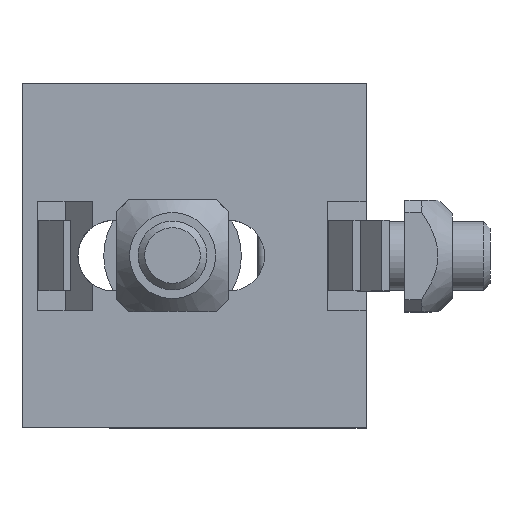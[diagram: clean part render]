
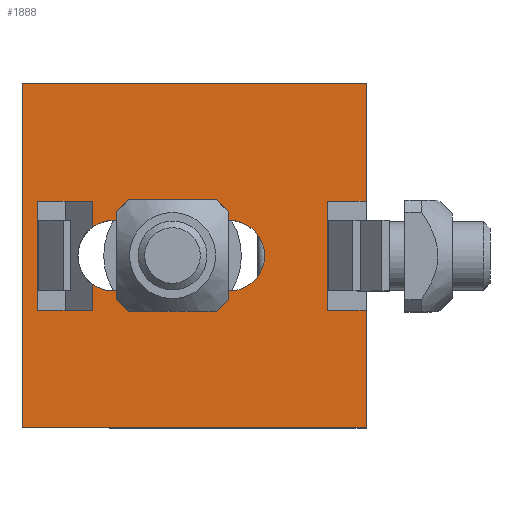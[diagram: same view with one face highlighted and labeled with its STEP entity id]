
A CAD part, top view. The second image highlights one B-rep face of the part: STEP entity #1888.
In plain terms, the highlighted planar face has unit normal (0, 0, 1) as drawn and (-1, 0, 0) by its records, which use the part's own axes.
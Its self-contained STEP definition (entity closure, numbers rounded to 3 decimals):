
#1423=CARTESIAN_POINT('',(0.,4.5,6.35));
#1424=VERTEX_POINT('',#1423);
#1425=CARTESIAN_POINT('',(0.0,0.0,6.35));
#1426=VERTEX_POINT('',#1425);
#1427=CARTESIAN_POINT('',(0.0,4.5,6.35));
#1428=DIRECTION('',(0.0,-1.0,0.0));
#1429=VECTOR('',#1428,4.5);
#1430=LINE('',#1427,#1429);
#1431=EDGE_CURVE('',#1424,#1426,#1430,.T.);
#1457=CARTESIAN_POINT('',(0.,4.5,-6.35));
#1458=VERTEX_POINT('',#1457);
#1472=CARTESIAN_POINT('',(0.0,4.5,-6.35));
#1473=DIRECTION('',(0.0,0.0,1.0));
#1474=VECTOR('',#1473,12.7);
#1475=LINE('',#1472,#1474);
#1476=EDGE_CURVE('',#1458,#1424,#1475,.T.);
#1499=CARTESIAN_POINT('',(0.0,0.0,-6.35));
#1500=VERTEX_POINT('',#1499);
#1501=CARTESIAN_POINT('',(0.0,0.0,-6.35));
#1502=DIRECTION('',(0.0,1.0,0.0));
#1503=VECTOR('',#1502,4.5);
#1504=LINE('',#1501,#1503);
#1505=EDGE_CURVE('',#1500,#1458,#1504,.T.);
#1521=CARTESIAN_POINT('',(0.0,31.818,3.311));
#1522=VERTEX_POINT('',#1521);
#1523=CARTESIAN_POINT('',(0.0,31.818,-3.311));
#1524=VERTEX_POINT('',#1523);
#1532=CARTESIAN_POINT('',(0.0,31.818,6.35));
#1533=VERTEX_POINT('',#1532);
#1534=CARTESIAN_POINT('',(0.,31.818,6.35));
#1535=DIRECTION('',(0.0,0.0,-1.0));
#1536=VECTOR('',#1535,3.039);
#1537=LINE('',#1534,#1536);
#1538=EDGE_CURVE('',#1533,#1522,#1537,.T.);
#1556=CARTESIAN_POINT('',(0.0,31.818,-6.35));
#1557=VERTEX_POINT('',#1556);
#1564=CARTESIAN_POINT('',(0.,31.818,-3.311));
#1565=DIRECTION('',(0.0,0.0,-1.0));
#1566=VECTOR('',#1565,3.039);
#1567=LINE('',#1564,#1566);
#1568=EDGE_CURVE('',#1524,#1557,#1567,.T.);
#1578=CARTESIAN_POINT('',(0.0,38.182,6.35));
#1579=VERTEX_POINT('',#1578);
#1580=CARTESIAN_POINT('',(0.0,38.182,6.35));
#1581=DIRECTION('',(0.0,-1.0,0.0));
#1582=VECTOR('',#1581,6.364);
#1583=LINE('',#1580,#1582);
#1584=EDGE_CURVE('',#1579,#1533,#1583,.T.);
#1601=CARTESIAN_POINT('',(0.0,38.182,-6.35));
#1602=VERTEX_POINT('',#1601);
#1611=CARTESIAN_POINT('',(0.,38.182,-6.35));
#1612=DIRECTION('',(0.0,0.0,1.0));
#1613=VECTOR('',#1612,12.7);
#1614=LINE('',#1611,#1613);
#1615=EDGE_CURVE('',#1602,#1579,#1614,.T.);
#1632=CARTESIAN_POINT('',(0.0,31.818,-6.35));
#1633=DIRECTION('',(0.0,1.0,0.0));
#1634=VECTOR('',#1633,6.364);
#1635=LINE('',#1632,#1634);
#1636=EDGE_CURVE('',#1557,#1602,#1635,.T.);
#1774=CARTESIAN_POINT('',(0.0,29.4,-4.1));
#1775=VERTEX_POINT('',#1774);
#1776=CARTESIAN_POINT('',(0.0,29.4,0.0));
#1777=DIRECTION('',(1.0,0.0,0.0));
#1778=DIRECTION('',(0.0,0.0,-1.0));
#1779=AXIS2_PLACEMENT_3D('',#1776,#1777,#1778);
#1780=CIRCLE('',#1779,4.1);
#1781=EDGE_CURVE('',#1775,#1524,#1780,.T.);
#1790=CARTESIAN_POINT('',(0.0,29.4,4.1));
#1791=VERTEX_POINT('',#1790);
#1798=CARTESIAN_POINT('',(0.0,29.4,0.0));
#1799=DIRECTION('',(1.0,0.0,0.0));
#1800=DIRECTION('',(0.0,0.0,-1.0));
#1801=AXIS2_PLACEMENT_3D('',#1798,#1799,#1800);
#1802=CIRCLE('',#1801,4.1);
#1803=EDGE_CURVE('',#1522,#1791,#1802,.T.);
#1808=CARTESIAN_POINT('',(0.0,0.0,0.0));
#1809=DIRECTION('',(-1.0,0.0,0.0));
#1810=DIRECTION('',(0.0,0.0,1.0));
#1811=AXIS2_PLACEMENT_3D('',#1808,#1809,#1810);
#1812=PLANE('',#1811);
#1813=ORIENTED_EDGE('',*,*,#1505,.T.);
#1814=ORIENTED_EDGE('',*,*,#1476,.T.);
#1815=ORIENTED_EDGE('',*,*,#1431,.T.);
#1816=CARTESIAN_POINT('',(0.0,0.0,20.0));
#1817=VERTEX_POINT('',#1816);
#1818=CARTESIAN_POINT('',(0.0,0.0,6.35));
#1819=DIRECTION('',(0.0,0.0,1.0));
#1820=VECTOR('',#1819,13.65);
#1821=LINE('',#1818,#1820);
#1822=EDGE_CURVE('',#1426,#1817,#1821,.T.);
#1823=ORIENTED_EDGE('',*,*,#1822,.T.);
#1824=CARTESIAN_POINT('',(0.0,40.0,20.0));
#1825=VERTEX_POINT('',#1824);
#1826=CARTESIAN_POINT('',(0.0,0.0,20.0));
#1827=DIRECTION('',(0.0,1.0,0.0));
#1828=VECTOR('',#1827,40.0);
#1829=LINE('',#1826,#1828);
#1830=EDGE_CURVE('',#1817,#1825,#1829,.T.);
#1831=ORIENTED_EDGE('',*,*,#1830,.T.);
#1832=CARTESIAN_POINT('',(0.0,40.0,-20.0));
#1833=VERTEX_POINT('',#1832);
#1834=CARTESIAN_POINT('',(0.0,40.0,20.0));
#1835=DIRECTION('',(0.0,0.0,-1.0));
#1836=VECTOR('',#1835,40.0);
#1837=LINE('',#1834,#1836);
#1838=EDGE_CURVE('',#1825,#1833,#1837,.T.);
#1839=ORIENTED_EDGE('',*,*,#1838,.T.);
#1840=CARTESIAN_POINT('',(0.0,0.0,-20.0));
#1841=VERTEX_POINT('',#1840);
#1842=CARTESIAN_POINT('',(0.0,40.0,-20.0));
#1843=DIRECTION('',(0.0,-1.0,0.0));
#1844=VECTOR('',#1843,40.0);
#1845=LINE('',#1842,#1844);
#1846=EDGE_CURVE('',#1833,#1841,#1845,.T.);
#1847=ORIENTED_EDGE('',*,*,#1846,.T.);
#1848=CARTESIAN_POINT('',(0.0,0.0,-20.0));
#1849=DIRECTION('',(0.0,0.0,1.0));
#1850=VECTOR('',#1849,13.65);
#1851=LINE('',#1848,#1850);
#1852=EDGE_CURVE('',#1841,#1500,#1851,.T.);
#1853=ORIENTED_EDGE('',*,*,#1852,.T.);
#1854=EDGE_LOOP('',(#1813,#1814,#1815,#1823,#1831,#1839,#1847,#1853));
#1855=FACE_OUTER_BOUND('',#1854,.T.);
#1856=ORIENTED_EDGE('',*,*,#1538,.T.);
#1857=ORIENTED_EDGE('',*,*,#1803,.T.);
#1858=CARTESIAN_POINT('',(0.0,15.9,4.1));
#1859=VERTEX_POINT('',#1858);
#1860=CARTESIAN_POINT('',(0.0,29.4,4.1));
#1861=DIRECTION('',(0.0,-1.0,0.0));
#1862=VECTOR('',#1861,13.5);
#1863=LINE('',#1860,#1862);
#1864=EDGE_CURVE('',#1791,#1859,#1863,.T.);
#1865=ORIENTED_EDGE('',*,*,#1864,.T.);
#1866=CARTESIAN_POINT('',(0.0,15.9,-4.1));
#1867=VERTEX_POINT('',#1866);
#1868=CARTESIAN_POINT('',(0.0,15.9,0.0));
#1869=DIRECTION('',(1.0,0.0,0.0));
#1870=DIRECTION('',(0.0,0.0,1.0));
#1871=AXIS2_PLACEMENT_3D('',#1868,#1869,#1870);
#1872=CIRCLE('',#1871,4.1);
#1873=EDGE_CURVE('',#1859,#1867,#1872,.T.);
#1874=ORIENTED_EDGE('',*,*,#1873,.T.);
#1875=CARTESIAN_POINT('',(0.0,15.9,-4.1));
#1876=DIRECTION('',(0.0,1.0,0.0));
#1877=VECTOR('',#1876,13.5);
#1878=LINE('',#1875,#1877);
#1879=EDGE_CURVE('',#1867,#1775,#1878,.T.);
#1880=ORIENTED_EDGE('',*,*,#1879,.T.);
#1881=ORIENTED_EDGE('',*,*,#1781,.T.);
#1882=ORIENTED_EDGE('',*,*,#1568,.T.);
#1883=ORIENTED_EDGE('',*,*,#1636,.T.);
#1884=ORIENTED_EDGE('',*,*,#1615,.T.);
#1885=ORIENTED_EDGE('',*,*,#1584,.T.);
#1886=EDGE_LOOP('',(#1856,#1857,#1865,#1874,#1880,#1881,#1882,#1883,#1884,#1885));
#1887=FACE_BOUND('',#1886,.T.);
#1888=ADVANCED_FACE('',(#1855,#1887),#1812,.T.);
